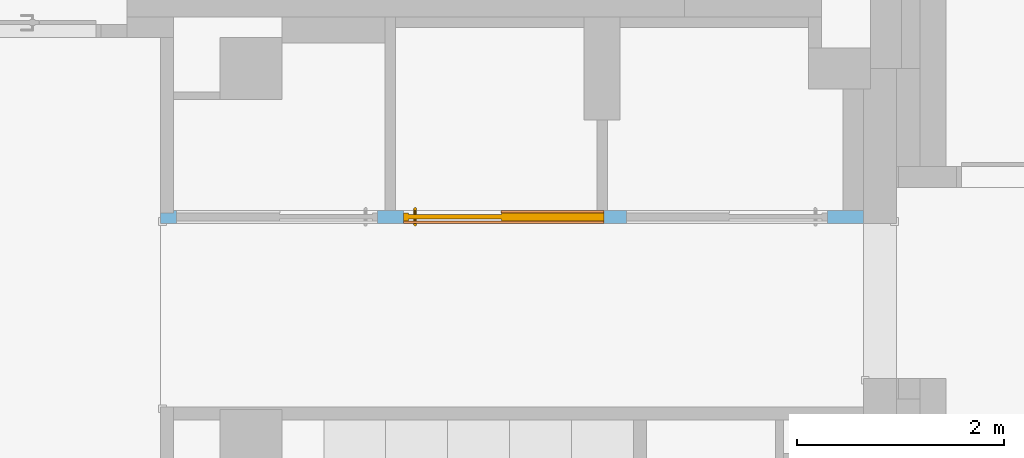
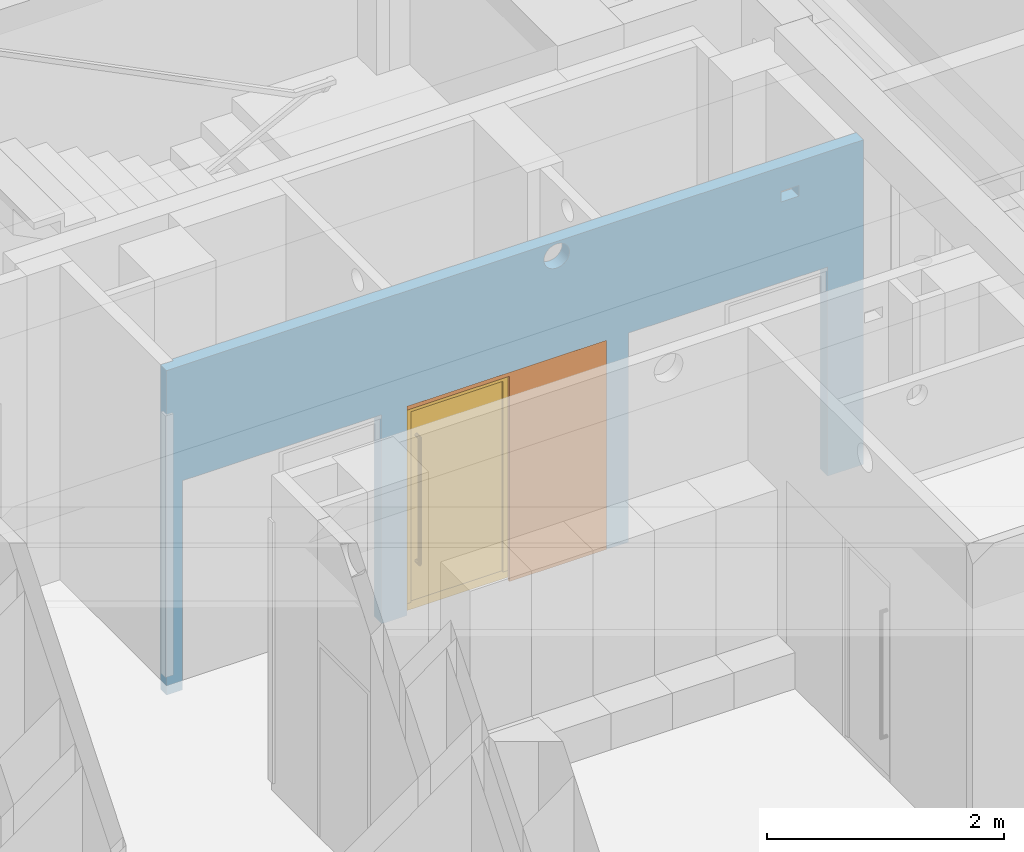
# One storey, part 103 of 140: 1 door, 1 proxy, 5 openings, plus 1 element that does not belong to this part.
"""IFC4 building model written with IfcOpenShell, lengths in metres."""

from ifc_helpers import new_model, entity, si_unit, converted_unit, derived_unit, frame, origin, origin_with_axes, place, context, subcontext, project, spatial, polyline, outline, extrude, closed_shell, open_shell, faceted_brep, surface_model, source, transform, mapped, material, layer, layer_set, layer_usage, type_object, element, fill, save


model = new_model("IFC4")

# Units and contexts
model_context = context("Model", 3, precision=1e-05, world=origin())
body_context = subcontext(model_context, "Body", "Model", "MODEL_VIEW")
ifc_project = project(units=[si_unit("LENGTHUNIT", "METRE"), si_unit("AREAUNIT", "SQUARE_METRE"), si_unit("VOLUMEUNIT", "CUBIC_METRE"), si_unit("MASSUNIT", "GRAM", prefix="KILO"), converted_unit("PLANEANGLEUNIT", "DEGREE", entity("IfcPlaneAngleMeasure", 0.0174532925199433), si_unit("PLANEANGLEUNIT", "RADIAN"), dimensions=[0, 0, 0, 0, 0, 0, 0]), derived_unit("THERMALTRANSMITTANCEUNIT", [(si_unit("POWERUNIT", "WATT"), 1), (si_unit("THERMODYNAMICTEMPERATUREUNIT", "KELVIN"), -1), (si_unit("LENGTHUNIT", "METRE"), -2)]), derived_unit("VOLUMETRICFLOWRATEUNIT", [(si_unit("LENGTHUNIT", "METRE"), 3), (converted_unit("TIMEUNIT", "hour", entity("IfcTimeMeasure", 3600.0), si_unit("TIMEUNIT", "SECOND"), dimensions=[0, 0, 1, 0, 0, 0, 0]), -1), (si_unit("LENGTHUNIT", "METRE"), -1)])], contexts=[model_context])

# Site, building, storey
site_placement = place(None, origin())
site = spatial("IfcSite", under=ifc_project, at=site_placement, Name="3. ASŘ", CompositionType="ELEMENT")
building_placement = place(site_placement, origin())
building = spatial("IfcBuilding", under=site, at=building_placement, Name="Pavilon C", CompositionType="ELEMENT")
storey_placement = place(building_placement, origin())
storey = spatial("IfcBuildingStorey", under=building, at=storey_placement, Name="Půdorys 1.NP", CompositionType="ELEMENT", Elevation=0.0)

# Wall, openings, door, proxy
ifc_material_1 = material(Name="SDK - 1 KCE + DVOJITÉ OPLÁŠTĚNÍ")
ifc_layer = layer(ifc_material_1, 0.125)
ifc_layer_set = layer_set([ifc_layer])
ifc_layer_usage = layer_usage(ifc_layer_set, "AXIS2", "POSITIVE", 0.0)
wall_placement = place(storey_placement, frame((43.075, 27.3, -0.1)))
wall = element("IfcWall", 1, at=wall_placement, inside=storey, material=ifc_layer_usage, Name="SDK - 1 KCE + DVOJITÉ OPLÁŠTĚNÍ", context=body_context, shape_type="SweptSolid", body=[
    extrude(outline(polyline([(0.0, 0.0), (6.805, 0.0), (6.805, 0.125), (0.125, 0.125), (0.125, 0.100000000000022), (0.0, 0.100000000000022), (0.0, 0.0)])), origin_with_axes(), (0.0, 0.0, 1.0), 3.35),
])
opening_1_placement = place(wall_placement, frame((0.155, 0.0, 0.0), z_axis=(0.0, 1.0, 0.0), x_axis=(0.0, 0.0, 1.0)))
element("IfcOpeningElement", 2, at=opening_1_placement, cuts=wall, Name="Dveřní otvor", ObjectType="Opening", context=body_context, shape_type="SweptSolid", body=[
    extrude(outline(polyline([(0.0, 1.945), (2.16, 1.945), (2.16, 0.0), (0.0, 0.0), (0.0, 1.945)])), origin_with_axes(), (0.0, 0.0, 1.0), 0.125),
])
opening_2_placement = place(wall_placement, frame((4.51, 0.0, 0.0), z_axis=(0.0, 1.0, 0.0), x_axis=(0.0, 0.0, 1.0)))
element("IfcOpeningElement", 3, at=opening_2_placement, cuts=wall, Name="Dveřní otvor", ObjectType="Opening", context=body_context, shape_type="SweptSolid", body=[
    extrude(outline(polyline([(0.0, 1.945), (2.16, 1.945), (2.16, 0.0), (0.0, 0.0), (0.0, 1.945)])), origin_with_axes(), (0.0, 0.0, 1.0), 0.125),
])
opening_3_placement = place(wall_placement, frame((2.35, 0.0, 0.0), z_axis=(0.0, 1.0, 0.0), x_axis=(0.0, 0.0, 1.0)))
opening_3 = element("IfcOpeningElement", 4, at=opening_3_placement, cuts=wall, Name="Dveřní otvor", ObjectType="Opening", context=body_context, shape_type="SweptSolid", body=[
    extrude(outline(polyline([(0.0, 1.945), (2.16, 1.945), (2.16, 0.0), (0.0, 0.0), (0.0, 1.945)])), origin_with_axes(), (0.0, 0.0, 1.0), 0.125),
])
opening_4_placement = place(wall_placement, frame((6.00075727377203, 0.0, 2.99), z_axis=(0.0, 1.0, 0.0), x_axis=(0.0, 0.0, 1.0)))
element("IfcOpeningElement", 5, at=opening_4_placement, cuts=wall, Name="ZTI", ObjectType="Opening", context=body_context, shape_type="SweptSolid", body=[
    extrude(outline(polyline([(0.0, 0.175), (0.11, 0.175), (0.11, 0.0), (0.0, 0.0), (0.0, 0.175)])), origin_with_axes(), (0.0, 0.0, 1.0), 0.125),
])
opening_5_placement = place(wall_placement, frame((3.685, 0.0, 3.075), z_axis=(0.0, 1.0, 0.0), x_axis=(0.0, 0.0, 1.0)))
element("IfcOpeningElement", 6, at=opening_5_placement, cuts=wall, Name="VZT", ObjectType="Opening", context=body_context, shape_type="SweptSolid", body=[
    extrude(outline(polyline([(0.125, 0.0), (0.111933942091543, 0.000684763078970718), (0.09901103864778, 0.00273154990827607), (0.0863728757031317, 0.00611793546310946), (0.0741579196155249, 0.010806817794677), (0.0625, 0.0167468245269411), (0.0515268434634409, 0.0238728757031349), (0.041358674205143, 0.0321068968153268), (0.0321068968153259, 0.0413586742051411), (0.0238728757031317, 0.0515268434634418), (0.0167468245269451, 0.0625), (0.0108068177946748, 0.0741579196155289), (0.00611793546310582, 0.0863728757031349), (0.00273154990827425, 0.0990110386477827), (0.000684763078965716, 0.111933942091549), (0.0, 0.125), (0.000684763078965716, 0.138066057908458), (0.00273154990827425, 0.150988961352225), (0.00611793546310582, 0.163627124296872), (0.0108068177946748, 0.175842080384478), (0.0167468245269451, 0.1875), (0.0238728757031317, 0.198473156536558), (0.0321068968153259, 0.208641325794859), (0.0413586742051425, 0.217893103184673), (0.0515268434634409, 0.226127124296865), (0.0625, 0.233253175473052), (0.0741579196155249, 0.239193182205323), (0.0863728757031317, 0.243882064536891), (0.09901103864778, 0.247268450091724), (0.111933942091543, 0.249315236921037), (0.125, 0.25), (0.138066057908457, 0.249315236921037), (0.15098896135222, 0.247268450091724), (0.163627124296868, 0.243882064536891), (0.175842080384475, 0.239193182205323), (0.1875, 0.233253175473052), (0.198473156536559, 0.226127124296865), (0.208641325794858, 0.217893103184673), (0.217893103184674, 0.208641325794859), (0.226127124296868, 0.198473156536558), (0.233253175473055, 0.1875), (0.239193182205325, 0.175842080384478), (0.243882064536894, 0.163627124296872), (0.247268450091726, 0.150988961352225), (0.249315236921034, 0.138066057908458), (0.25, 0.125), (0.249315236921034, 0.111933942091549), (0.247268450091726, 0.0990110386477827), (0.243882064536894, 0.0863728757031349), (0.239193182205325, 0.0741579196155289), (0.233253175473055, 0.0625), (0.226127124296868, 0.0515268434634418), (0.217893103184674, 0.0413586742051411), (0.208641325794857, 0.0321068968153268), (0.198473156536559, 0.0238728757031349), (0.1875, 0.0167468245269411), (0.175842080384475, 0.010806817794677), (0.163627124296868, 0.00611793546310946), (0.15098896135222, 0.00273154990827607), (0.138066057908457, 0.000684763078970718), (0.125, 0.0)])), origin_with_axes(), (0.0, 0.0, 1.0), 0.125),
])
door_type = type_object("IfcDoorType", Name="I.DP04", OperationType="NOTDEFINED", ParameterTakesPrecedence=False, PredefinedType="DOOR")
shared_shape = source(origin_with_axes(), body_context, "Body", "SurfaceModel", [
    surface_model("IfcShellBasedSurfaceModel", [(0.0, 0.0924999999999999, 0.0), (1.945, 0.0924999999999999, 0.0), (1.945, 0.0924999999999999, 0.1), (0.0, 0.0924999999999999, 0.1)], [open_shell([[[0, 1, 2, 3]]], orient=[[False]])]),
    surface_model("IfcShellBasedSurfaceModel", [(0.0, 0.13, 2.16), (0.0, 0.13, 0.101), (0.995, 0.13, 0.101), (0.995, 0.13, 2.16), (0.0, 0.0549999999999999, 0.101), (0.0, 0.0550000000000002, 2.16), (0.995, 0.0550000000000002, 2.16), (0.995, 0.0549999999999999, 0.101)], [closed_shell([[[0, 1, 2, 3]], [[4, 5, 6, 7]], [[1, 0, 5, 4]], [[2, 1, 4, 7]], [[3, 2, 7, 6]], [[0, 3, 6, 5]]], orient=[[False], [False], [False], [False], [False], [False]])]),
    surface_model("IfcShellBasedSurfaceModel", [(1.895, 0.13, 2.16), (1.895, 0.13, 0.101), (1.945, 0.13, 0.101), (1.945, 0.13, 2.16), (1.895, 0.0549999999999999, 0.101), (1.895, 0.0550000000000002, 2.16), (1.945, 0.0550000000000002, 2.16), (1.945, 0.0549999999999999, 0.101)], [closed_shell([[[0, 1, 2, 3]], [[4, 5, 6, 7]], [[1, 0, 5, 4]], [[2, 1, 4, 7]], [[3, 2, 7, 6]], [[0, 3, 6, 5]]], orient=[[False], [False], [False], [False], [False], [False]])]),
    surface_model("IfcShellBasedSurfaceModel", [(0.995, 0.13, 2.16), (0.995, 0.13, 2.07), (1.895, 0.13, 2.07), (1.895, 0.13, 2.16), (0.995, 0.0550000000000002, 2.07), (0.995, 0.0550000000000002, 2.16), (1.895, 0.0550000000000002, 2.16), (1.895, 0.0550000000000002, 2.07)], [closed_shell([[[0, 1, 2, 3]], [[4, 5, 6, 7]], [[1, 0, 5, 4]], [[2, 1, 4, 7]], [[3, 2, 7, 6]], [[0, 3, 6, 5]]], orient=[[False], [False], [False], [False], [False], [False]])]),
    surface_model("IfcShellBasedSurfaceModel", [(0.995, 0.11, 2.07), (0.995, 0.11, 0.101), (1.895, 0.11, 0.101), (1.895, 0.11, 2.07), (0.995, 0.0699999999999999, 0.101), (0.995, 0.0700000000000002, 2.07), (1.895, 0.0700000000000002, 2.07), (1.895, 0.0699999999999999, 0.101)], [closed_shell([[[0, 1, 2, 3]], [[4, 5, 6, 7]], [[1, 0, 5, 4]], [[2, 1, 4, 7]], [[3, 2, 7, 6]], [[0, 3, 6, 5]]], orient=[[False], [False], [False], [False], [False], [False]])]),
    surface_model("IfcShellBasedSurfaceModel", [(1.845, 0.0700000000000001, 1.801), (1.84299038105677, 0.0700000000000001, 1.8085), (1.8375, 0.0700000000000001, 1.81399038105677), (1.83, 0.0700000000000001, 1.816), (1.8225, 0.0700000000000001, 1.81399038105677), (1.81700961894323, 0.0700000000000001, 1.8085), (1.815, 0.0700000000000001, 1.801), (1.81700961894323, 0.0700000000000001, 1.7935), (1.8225, 0.0700000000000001, 1.78800961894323), (1.83, 0.0700000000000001, 1.786), (1.8375, 0.0700000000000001, 1.78800961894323), (1.84299038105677, 0.0700000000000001, 1.7935), (1.845, 0.0150000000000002, 1.801), (1.84299038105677, 0.00750000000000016, 1.8085), (1.8375, 0.00200961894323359, 1.81399038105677), (1.83, 1.70530256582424e-16, 1.816), (1.8225, 0.00200961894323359, 1.81399038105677), (1.81700961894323, 0.00750000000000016, 1.8085), (1.815, 0.0150000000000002, 1.801), (1.81700961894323, 0.0225000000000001, 1.7935), (1.8225, 0.0279903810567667, 1.78800961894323), (1.83, 0.0300000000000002, 1.786), (1.8375, 0.0279903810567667, 1.78800961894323), (1.84299038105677, 0.0225000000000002, 1.7935), (1.845, 0.015, 0.501), (1.84299038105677, 0.00749999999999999, 0.4935), (1.8375, 0.00200961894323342, 0.488009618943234), (1.83, 0.0, 0.486), (1.8225, 0.00200961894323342, 0.488009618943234), (1.81700961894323, 0.00749999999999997, 0.4935), (1.815, 0.015, 0.501), (1.81700961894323, 0.0225, 0.5085), (1.8225, 0.0279903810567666, 0.513990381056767), (1.83, 0.03, 0.516), (1.8375, 0.0279903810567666, 0.513990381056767), (1.84299038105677, 0.0225, 0.5085), (1.845, 0.07, 0.501), (1.84299038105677, 0.07, 0.4935), (1.8375, 0.07, 0.488009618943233), (1.83, 0.07, 0.486), (1.8225, 0.07, 0.488009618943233), (1.81700961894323, 0.07, 0.4935), (1.815, 0.07, 0.501), (1.81700961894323, 0.07, 0.5085), (1.8225, 0.07, 0.513990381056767), (1.83, 0.07, 0.516), (1.8375, 0.07, 0.513990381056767), (1.84299038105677, 0.07, 0.5085)], [open_shell([[[0, 1, 2, 3, 4, 5, 6, 7, 8, 9, 10, 11]], [[0, 12, 13, 1]], [[1, 13, 14, 2]], [[2, 14, 15, 3]], [[3, 15, 16, 4]], [[4, 16, 17, 5]], [[5, 17, 18, 6]], [[6, 18, 19, 7]], [[7, 19, 20, 8]], [[8, 20, 21, 9]], [[9, 21, 22, 10]], [[10, 22, 23, 11]], [[11, 23, 12, 0]], [[12, 24, 25, 13]], [[13, 25, 26, 14]], [[14, 26, 27, 15]], [[15, 27, 28, 16]], [[16, 28, 29, 17]], [[17, 29, 30, 18]], [[18, 30, 31, 19]], [[19, 31, 32, 20]], [[20, 32, 33, 21]], [[21, 33, 34, 22]], [[22, 34, 35, 23]], [[23, 35, 24, 12]], [[24, 36, 37, 25]], [[25, 37, 38, 26]], [[26, 38, 39, 27]], [[27, 39, 40, 28]], [[28, 40, 41, 29]], [[29, 41, 42, 30]], [[30, 42, 43, 31]], [[31, 43, 44, 32]], [[32, 44, 45, 33]], [[33, 45, 46, 34]], [[34, 46, 47, 35]], [[35, 47, 36, 24]]], orient=[[False], [False], [False], [False], [False], [False], [False], [False], [False], [False], [False], [False], [False], [False], [False], [False], [False], [False], [False], [False], [False], [False], [False], [False], [False], [False], [False], [False], [False], [False], [False], [False], [False], [False], [False], [False], [False]])]),
    surface_model("IfcShellBasedSurfaceModel", [(1.845, 0.11, 1.801), (1.84299038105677, 0.11, 1.7935), (1.8375, 0.11, 1.78800961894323), (1.83, 0.11, 1.786), (1.8225, 0.11, 1.78800961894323), (1.81700961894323, 0.11, 1.7935), (1.815, 0.11, 1.801), (1.81700961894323, 0.11, 1.8085), (1.8225, 0.11, 1.81399038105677), (1.83, 0.11, 1.816), (1.8375, 0.11, 1.81399038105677), (1.84299038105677, 0.11, 1.8085), (1.84299038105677, 0.1725, 1.8085), (1.845, 0.165, 1.801), (1.8375, 0.177990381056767, 1.81399038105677), (1.83, 0.18, 1.816), (1.8225, 0.177990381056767, 1.81399038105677), (1.81700961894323, 0.1725, 1.8085), (1.815, 0.165, 1.801), (1.81700961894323, 0.1575, 1.7935), (1.8225, 0.152009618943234, 1.78800961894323), (1.83, 0.15, 1.786), (1.8375, 0.152009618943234, 1.78800961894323), (1.84299038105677, 0.1575, 1.7935), (1.84299038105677, 0.1725, 0.4935), (1.845, 0.165, 0.501), (1.8375, 0.177990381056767, 0.488009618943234), (1.83, 0.18, 0.486), (1.8225, 0.177990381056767, 0.488009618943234), (1.81700961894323, 0.1725, 0.4935), (1.815, 0.165, 0.501), (1.81700961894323, 0.1575, 0.5085), (1.8225, 0.152009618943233, 0.513990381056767), (1.83, 0.15, 0.516), (1.8375, 0.152009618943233, 0.513990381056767), (1.84299038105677, 0.1575, 0.5085), (1.84299038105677, 0.11, 0.4935), (1.845, 0.11, 0.501), (1.8375, 0.11, 0.488009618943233), (1.83, 0.11, 0.486), (1.8225, 0.11, 0.488009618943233), (1.81700961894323, 0.11, 0.4935), (1.815, 0.11, 0.501), (1.81700961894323, 0.11, 0.5085), (1.8225, 0.11, 0.513990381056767), (1.83, 0.11, 0.516), (1.8375, 0.11, 0.513990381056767), (1.84299038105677, 0.11, 0.5085)], [open_shell([[[0, 1, 2, 3, 4, 5, 6, 7, 8, 9, 10, 11]], [[0, 11, 12, 13]], [[11, 10, 14, 12]], [[10, 9, 15, 14]], [[9, 8, 16, 15]], [[8, 7, 17, 16]], [[7, 6, 18, 17]], [[6, 5, 19, 18]], [[5, 4, 20, 19]], [[4, 3, 21, 20]], [[3, 2, 22, 21]], [[2, 1, 23, 22]], [[1, 0, 13, 23]], [[13, 12, 24, 25]], [[12, 14, 26, 24]], [[14, 15, 27, 26]], [[15, 16, 28, 27]], [[16, 17, 29, 28]], [[17, 18, 30, 29]], [[18, 19, 31, 30]], [[19, 20, 32, 31]], [[20, 21, 33, 32]], [[21, 22, 34, 33]], [[22, 23, 35, 34]], [[23, 13, 25, 35]], [[25, 24, 36, 37]], [[24, 26, 38, 36]], [[26, 27, 39, 38]], [[27, 28, 40, 39]], [[28, 29, 41, 40]], [[29, 30, 42, 41]], [[30, 31, 43, 42]], [[31, 32, 44, 43]], [[32, 33, 45, 44]], [[33, 34, 46, 45]], [[34, 35, 47, 46]], [[35, 25, 37, 47]]], orient=[[False], [False], [False], [False], [False], [False], [False], [False], [False], [False], [False], [False], [False], [False], [False], [False], [False], [False], [False], [False], [False], [False], [False], [False], [False], [False], [False], [False], [False], [False], [False], [False], [False], [False], [False], [False], [False]])]),
])
door_placement = place(opening_3_placement, frame((0.0, 1.945, 0.155), z_axis=(1.0, 0.0, 0.0), x_axis=(0.0, -1.0, 1.22464679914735e-16)))
door = element("IfcDoor", 7, at=door_placement, inside=storey, type_object=door_type, Name="I.DP04", OverallHeight=2.16, OverallWidth=1.945, context=body_context, shape_type="MappedRepresentation", body=[
    mapped(shared_shape, transform((0.0, 0.0, 0.0), x_axis=(1.0, 0.0, 0.0), y_axis=(0.0, 1.0, 0.0), z_axis=(0.0, 0.0, 1.0), scale=1.0)),
])
fill(opening_3, door)
ifc_material_2 = material(Name="SDK - 1 KCE + DVOJITÉ OPLÁŠTĚNÍ")
proxy_placement = place(opening_3_placement, origin())
proxy = element("IfcBuildingElementProxy", 8, at=proxy_placement, inside=storey, material=ifc_material_2, context=body_context, shape_type="Brep", body=[
    faceted_brep([(0.0, 1.945, 0.125), (0.0, 1.0, 0.125), (0.0, 1.0, 0.1), (0.0, 1.945, 0.1), (2.12, 1.0, 0.125), (2.12, 1.0, 0.1), (2.12, 0.945, 0.1), (2.12, 0.945, 0.125), (2.16, 0.945, 0.125), (2.16, 0.945, 0.1), (2.16, 1.945, 0.1), (2.16, 1.945, 0.125), (0.0, 1.0, 7.105427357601e-18), (0.0, 1.0, 0.025), (2.12, 1.0, 0.025), (2.12, 1.0, 7.105427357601e-18), (0.0, 1.945, 0.025), (0.0, 1.945, 7.105427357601e-18), (2.16, 1.945, 7.105427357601e-18), (2.16, 1.945, 0.025), (2.12, 0.0, 0.025), (2.16, 0.0, 0.025), (2.12, 0.0, 7.105427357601e-18), (2.16, 0.0, 7.105427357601e-18)], [[[0, 1, 2, 3]], [[2, 1, 4, 5]], [[6, 7, 8, 9]], [[6, 9, 10, 3, 2, 5]], [[4, 7, 6, 5]], [[10, 9, 8, 11]], [[0, 3, 10, 11]], [[11, 8, 7, 4, 1, 0]], [[12, 13, 14, 15]], [[16, 17, 18, 19]], [[12, 17, 16, 13]], [[20, 14, 13, 16, 19, 21]], [[22, 23, 18, 17, 12, 15]], [[22, 20, 21, 23]], [[23, 21, 19, 18]], [[20, 22, 15, 14]]], orient=[[False], [False], [False], [False], [False], [False], [False], [False], [False], [False], [False], [False], [False], [False], [False], [False]]),
])
fill(opening_3, proxy)

save(model, "model.ifc")
